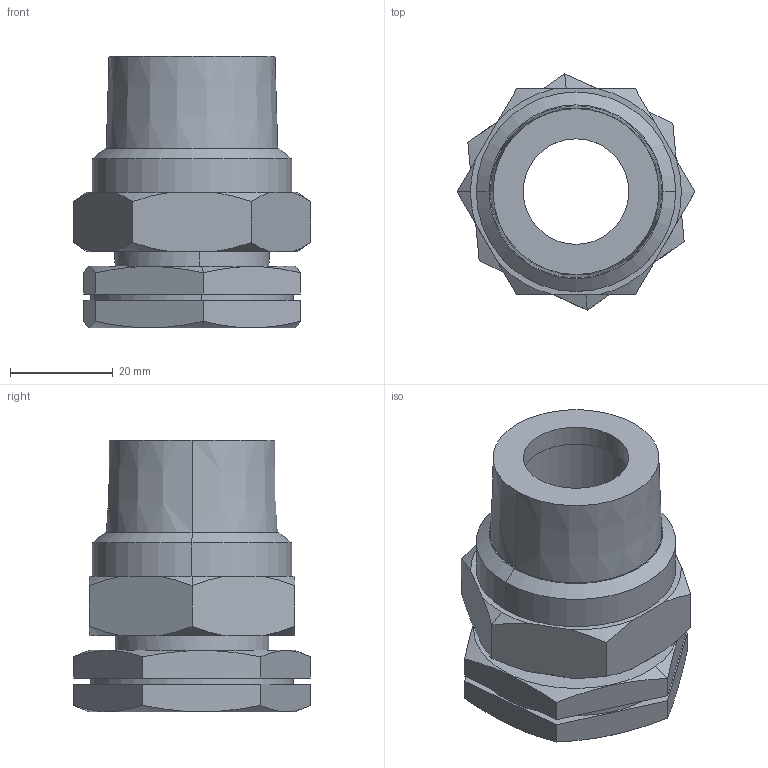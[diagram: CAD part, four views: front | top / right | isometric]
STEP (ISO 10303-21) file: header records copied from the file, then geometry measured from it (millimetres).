
FILE_DESCRIPTION (( 'STEP AP203' ), '1' );
FILE_NAME ('KP_PRK-25M.step', '2011-08-08T12:04:41', ( '' ), ( '' ), 'SwSTEP 2.0', 'SolidWorks 2011', '' );
FILE_SCHEMA (( 'CONFIG_CONTROL_DESIGN' ));
Length unit declared in the file: millimetre
Products named in the file (1): KP_PRK-25M
Bounding box: 46.19 x 45.98 x 52.84 mm (x, y, z)
Volume: 33694 mm3; surface area: 14529.8 mm2
Topology: 1 solids, 1 shells, 355 faces, 1023 edges, 678 vertices
Faces by surface type: plane 163, cylinder 162, cone 28, torus 2
Entity records: 12232 total; most frequent: CARTESIAN_POINT 2667, DIRECTION 2061, ORIENTED_EDGE 2046, EDGE_CURVE 1023, AXIS2_PLACEMENT_3D 848, VERTEX_POINT 678, CIRCLE 492, VECTOR 365
